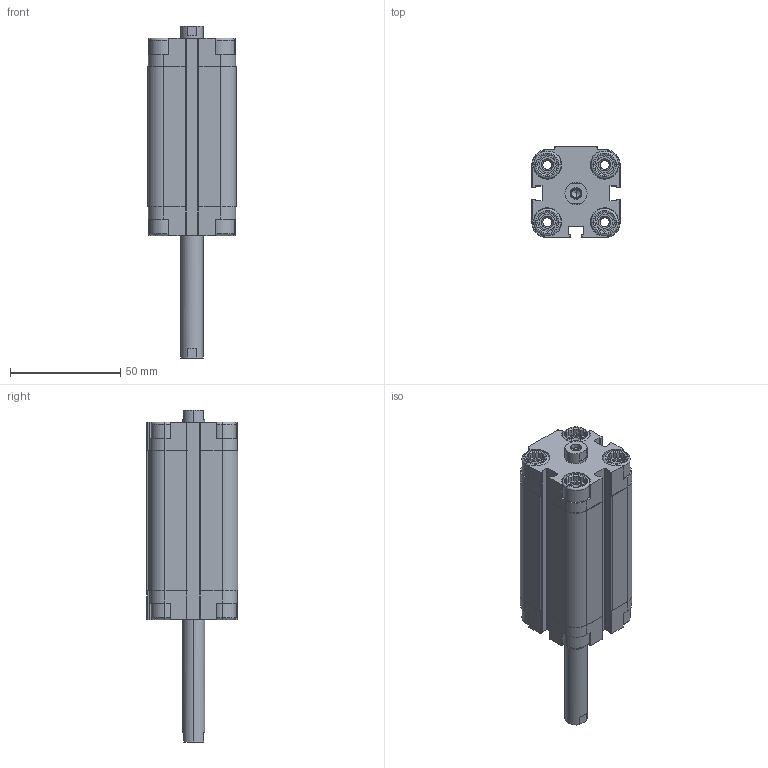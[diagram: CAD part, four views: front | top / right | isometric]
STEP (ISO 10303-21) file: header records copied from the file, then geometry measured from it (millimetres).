
FILE_DESCRIPTION (( 'STEP AP203' ), '1' );
FILE_NAME ('CDVU25-50F-P.STEP', '2020-07-24T18:09:56', ( '' ), ( '' ), 'SwSTEP 2.0', 'SolidWorks 2019', '' );
FILE_SCHEMA (( 'CONFIG_CONTROL_DESIGN' ));
Length unit declared in the file: millimetre
Products named in the file (1): CDVU25-50F-P
Bounding box: 40 x 41.5 x 150.5 mm (x, y, z)
Volume: 101008.2 mm3; surface area: 42763.8 mm2
Topology: 2 solids, 2 shells, 596 faces, 1574 edges, 1016 vertices
Faces by surface type: plane 356, cylinder 176, cone 48, torus 16
Entity records: 18577 total; most frequent: CARTESIAN_POINT 3755, ORIENTED_EDGE 3132, DIRECTION 3000, EDGE_CURVE 1566, AXIS2_PLACEMENT_3D 1029, VERTEX_POINT 1016, VECTOR 942, LINE 942
